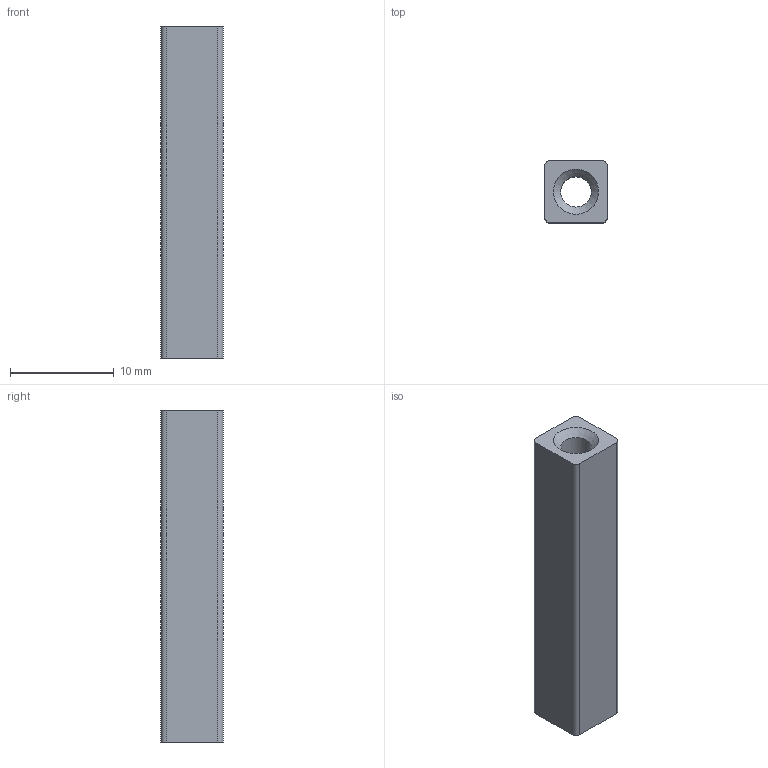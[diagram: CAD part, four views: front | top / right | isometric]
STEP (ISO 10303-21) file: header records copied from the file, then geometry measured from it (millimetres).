
FILE_DESCRIPTION(('FreeCAD Model'),'2;1');
FILE_NAME('Open CASCADE Shape Model','2026-08-19T11:41:23',('Author'),( ''),'Open CASCADE STEP processor 7.8','FreeCAD','Unknown');
FILE_SCHEMA(('AUTOMOTIVE_DESIGN { 1 0 10303 214 1 1 1 1 }'));
Length unit declared in the file: millimetre
Products named in the file (1): Body
Bounding box: 6 x 6 x 32 mm (x, y, z)
Volume: 921.2 mm3; surface area: 1088.7 mm2
Topology: 1 solids, 1 shells, 13 faces, 31 edges, 20 vertices
Faces by surface type: plane 6, cylinder 5, cone 2
Full cylindrical faces by diameter (mm): 2.95 x1
Entity records: 407 total; most frequent: DIRECTION 71, CARTESIAN_POINT 65, ORIENTED_EDGE 62, EDGE_CURVE 31, AXIS2_PLACEMENT_3D 26, VERTEX_POINT 20, LINE 19, VECTOR 19
